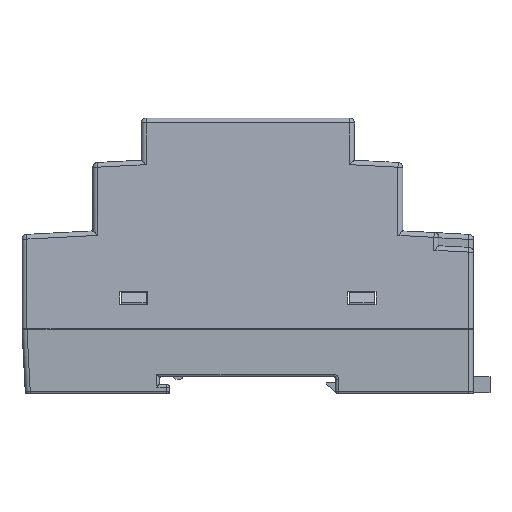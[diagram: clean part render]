
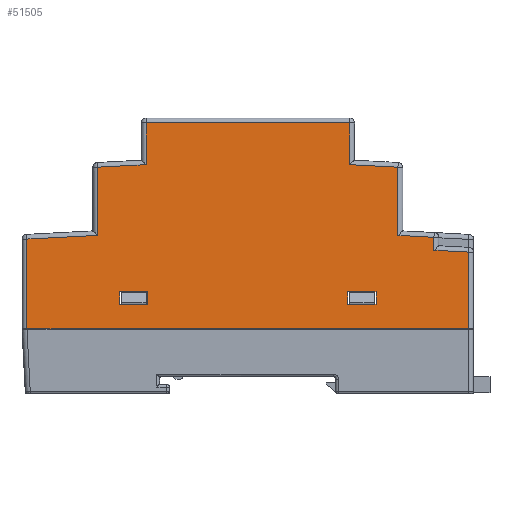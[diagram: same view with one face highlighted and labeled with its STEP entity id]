
A CAD part, left-side view. The second image highlights one B-rep face of the part: STEP entity #51505.
In plain terms, the highlighted planar face has unit normal (-0.999, 0, 0.052).
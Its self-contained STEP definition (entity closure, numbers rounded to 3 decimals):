
#20399=DIRECTION('',(-0.003,-0.999,-0.052));
#20400=VECTOR('',#20399,7.01);
#20401=CARTESIAN_POINT('',(-44.169,-37.5,15.853));
#20402=LINE('',#20401,#20400);
#20406=DIRECTION('',(0.003,-0.999,0.052));
#20407=VECTOR('',#20406,14.27);
#20408=CARTESIAN_POINT('',(-44.051,44.5,18.107));
#20409=LINE('',#20408,#20407);
#20413=DIRECTION('',(0.003,-0.999,0.052));
#20414=VECTOR('',#20413,9.763);
#20415=CARTESIAN_POINT('',(-43.292,30.25,32.592));
#20416=LINE('',#20415,#20414);
#20420=DIRECTION('',(-0.003,-0.999,-0.052));
#20421=VECTOR('',#20420,9.763);
#20422=CARTESIAN_POINT('',(-43.265,-20.5,33.103));
#20423=LINE('',#20422,#20421);
#20427=DIRECTION('',(-0.003,-0.999,-0.052));
#20428=VECTOR('',#20427,7.26);
#20429=CARTESIAN_POINT('',(-44.012,-30.25,18.853));
#20430=LINE('',#20429,#20428);
#20434=DIRECTION('',(0.,1.,0.));
#20435=VECTOR('',#20434,5.66);
#20436=CARTESIAN_POINT('',(-44.607,20.17,7.5));
#20437=LINE('',#20436,#20435);
#20441=DIRECTION('',(0.,-1.,0.));
#20442=VECTOR('',#20441,5.66);
#20443=CARTESIAN_POINT('',(-44.741,25.83,4.95));
#20444=LINE('',#20443,#20442);
#20448=DIRECTION('',(0.,1.,0.));
#20449=VECTOR('',#20448,5.66);
#20450=CARTESIAN_POINT('',(-44.607,-25.83,7.5));
#20451=LINE('',#20450,#20449);
#20455=DIRECTION('',(0.,-1.,0.));
#20456=VECTOR('',#20455,5.66);
#20457=CARTESIAN_POINT('',(-44.741,-20.17,4.95));
#20458=LINE('',#20457,#20456);
#20462=DIRECTION('',(0.052,0.,0.999));
#20463=VECTOR('',#20462,2.624);
#20464=CARTESIAN_POINT('',(-44.169,-37.5,15.853));
#20465=LINE('',#20464,#20463);
#20512=DIRECTION('',(0.052,0.,0.999));
#20513=VECTOR('',#20512,13.758);
#20514=CARTESIAN_POINT('',(-44.012,-30.25,18.853));
#20515=LINE('',#20514,#20513);
#20592=DIRECTION('',(0.052,0.,0.999));
#20593=VECTOR('',#20592,8.461);
#20594=CARTESIAN_POINT('',(-43.265,-20.5,33.103));
#20595=LINE('',#20594,#20593);
#22793=DIRECTION('',(0.,1.,0.));
#22794=VECTOR('',#22793,41.);
#22795=CARTESIAN_POINT('',(-42.822,-20.5,41.552));
#22796=LINE('',#22795,#22794);
#22831=DIRECTION('',(-0.052,0.,
-0.999));
#22832=VECTOR('',#22831,8.461);
#22833=CARTESIAN_POINT('',(-42.822,20.5,41.552));
#22834=LINE('',#22833,#22832);
#22881=DIRECTION('',(-0.052,0.,
-0.999));
#22882=VECTOR('',#22881,13.758);
#22883=CARTESIAN_POINT('',(-43.292,30.25,32.592));
#22884=LINE('',#22883,#22882);
#22924=DIRECTION('',(-0.052,0.,
-0.999));
#22925=VECTOR('',#22924,18.131);
#22926=CARTESIAN_POINT('',(-44.051,44.5,18.107));
#22927=LINE('',#22926,#22925);
#22931=DIRECTION('',(0.,-1.,0.));
#22932=VECTOR('',#22931,89.);
#22933=CARTESIAN_POINT('',(-45.,44.5,0.));
#22934=LINE('',#22933,#22932);
#23041=DIRECTION('',(0.052,0.,0.999));
#23042=VECTOR('',#23041,15.508);
#23043=CARTESIAN_POINT('',(-45.,-44.5,0.));
#23044=LINE('',#23043,#23042);
#28034=DIRECTION('',(-0.052,0.,-0.999));
#28035=VECTOR('',#28034,2.553);
#28036=CARTESIAN_POINT('',(-44.607,-25.83,7.5));
#28037=LINE('',#28036,#28035);
#28077=DIRECTION('',(0.052,0.,0.999));
#28078=VECTOR('',#28077,2.553);
#28079=CARTESIAN_POINT('',(-44.741,-20.17,4.95));
#28080=LINE('',#28079,#28078);
#28169=DIRECTION('',(-0.052,0.,-0.999));
#28170=VECTOR('',#28169,2.553);
#28171=CARTESIAN_POINT('',(-44.607,20.17,7.5));
#28172=LINE('',#28171,#28170);
#28212=DIRECTION('',(0.052,0.,0.999));
#28213=VECTOR('',#28212,2.553);
#28214=CARTESIAN_POINT('',(-44.741,25.83,4.95));
#28215=LINE('',#28214,#28213);
#47777=CARTESIAN_POINT('',(-44.169,-37.5,15.853));
#47778=CARTESIAN_POINT('',(-44.032,-37.5,18.473));
#47779=VERTEX_POINT('',#47777);
#47780=VERTEX_POINT('',#47778);
#47781=CARTESIAN_POINT('',(-44.188,-44.5,15.487));
#47782=VERTEX_POINT('',#47781);
#47783=CARTESIAN_POINT('',(-45.,-44.5,0.));
#47784=VERTEX_POINT('',#47783);
#47785=CARTESIAN_POINT('',(-45.,44.5,0.));
#47786=VERTEX_POINT('',#47785);
#47787=CARTESIAN_POINT('',(-44.051,44.5,18.107));
#47788=VERTEX_POINT('',#47787);
#47789=CARTESIAN_POINT('',(-44.012,30.25,18.853));
#47790=VERTEX_POINT('',#47789);
#47791=CARTESIAN_POINT('',(-43.292,30.25,32.592));
#47792=VERTEX_POINT('',#47791);
#47793=CARTESIAN_POINT('',(-43.265,20.5,33.103));
#47794=VERTEX_POINT('',#47793);
#47795=CARTESIAN_POINT('',(-42.822,20.5,41.552));
#47796=VERTEX_POINT('',#47795);
#47797=CARTESIAN_POINT('',(-42.822,-20.5,41.552));
#47798=VERTEX_POINT('',#47797);
#47799=CARTESIAN_POINT('',(-43.265,-20.5,33.103));
#47800=VERTEX_POINT('',#47799);
#47801=CARTESIAN_POINT('',(-43.292,-30.25,32.592));
#47802=VERTEX_POINT('',#47801);
#47803=CARTESIAN_POINT('',(-44.012,-30.25,18.853));
#47804=VERTEX_POINT('',#47803);
#47805=CARTESIAN_POINT('',(-44.607,20.17,7.5));
#47806=CARTESIAN_POINT('',(-44.607,25.83,7.5));
#47807=VERTEX_POINT('',#47805);
#47808=VERTEX_POINT('',#47806);
#47809=CARTESIAN_POINT('',(-44.741,25.83,4.95));
#47810=VERTEX_POINT('',#47809);
#47811=CARTESIAN_POINT('',(-44.741,20.17,4.95));
#47812=VERTEX_POINT('',#47811);
#47813=CARTESIAN_POINT('',(-44.607,-25.83,7.5));
#47814=CARTESIAN_POINT('',(-44.607,-20.17,7.5));
#47815=VERTEX_POINT('',#47813);
#47816=VERTEX_POINT('',#47814);
#47817=CARTESIAN_POINT('',(-44.741,-20.17,4.95));
#47818=VERTEX_POINT('',#47817);
#47819=CARTESIAN_POINT('',(-44.741,-25.83,4.95));
#47820=VERTEX_POINT('',#47819);
#51450=CARTESIAN_POINT('',(-45.,-47.118,0.));
#51451=DIRECTION('',(0.999,0.,-0.052));
#51452=DIRECTION('',(0.,-1.,0.));
#51453=AXIS2_PLACEMENT_3D('',#51450,#51451,#51452);
#51454=PLANE('',#51453);
#51456=ORIENTED_EDGE('',*,*,#51455,.F.);
#51458=ORIENTED_EDGE('',*,*,#51457,.T.);
#51460=ORIENTED_EDGE('',*,*,#51459,.F.);
#51462=ORIENTED_EDGE('',*,*,#51461,.F.);
#51464=ORIENTED_EDGE('',*,*,#51463,.F.);
#51466=ORIENTED_EDGE('',*,*,#51465,.T.);
#51468=ORIENTED_EDGE('',*,*,#51467,.F.);
#51470=ORIENTED_EDGE('',*,*,#51469,.T.);
#51472=ORIENTED_EDGE('',*,*,#51471,.F.);
#51474=ORIENTED_EDGE('',*,*,#51473,.F.);
#51476=ORIENTED_EDGE('',*,*,#51475,.F.);
#51478=ORIENTED_EDGE('',*,*,#51477,.T.);
#51480=ORIENTED_EDGE('',*,*,#51479,.F.);
#51482=ORIENTED_EDGE('',*,*,#51481,.T.);
#51483=EDGE_LOOP('',(#51456,#51458,#51460,#51462,#51464,#51466,#51468,#51470,
#51472,#51474,#51476,#51478,#51480,#51482));
#51484=FACE_OUTER_BOUND('',#51483,.F.);
#51486=ORIENTED_EDGE('',*,*,#51485,.T.);
#51488=ORIENTED_EDGE('',*,*,#51487,.F.);
#51490=ORIENTED_EDGE('',*,*,#51489,.T.);
#51492=ORIENTED_EDGE('',*,*,#51491,.F.);
#51493=EDGE_LOOP('',(#51486,#51488,#51490,#51492));
#51494=FACE_BOUND('',#51493,.F.);
#51496=ORIENTED_EDGE('',*,*,#51495,.T.);
#51498=ORIENTED_EDGE('',*,*,#51497,.F.);
#51500=ORIENTED_EDGE('',*,*,#51499,.T.);
#51502=ORIENTED_EDGE('',*,*,#51501,.F.);
#51503=EDGE_LOOP('',(#51496,#51498,#51500,#51502));
#51504=FACE_BOUND('',#51503,.F.);
#51455=EDGE_CURVE('',#47779,#47780,#20465,.T.);
#51457=EDGE_CURVE('',#47779,#47782,#20402,.T.);
#51459=EDGE_CURVE('',#47784,#47782,#23044,.T.);
#51461=EDGE_CURVE('',#47786,#47784,#22934,.T.);
#51463=EDGE_CURVE('',#47788,#47786,#22927,.T.);
#51465=EDGE_CURVE('',#47788,#47790,#20409,.T.);
#51467=EDGE_CURVE('',#47792,#47790,#22884,.T.);
#51469=EDGE_CURVE('',#47792,#47794,#20416,.T.);
#51471=EDGE_CURVE('',#47796,#47794,#22834,.T.);
#51473=EDGE_CURVE('',#47798,#47796,#22796,.T.);
#51475=EDGE_CURVE('',#47800,#47798,#20595,.T.);
#51477=EDGE_CURVE('',#47800,#47802,#20423,.T.);
#51479=EDGE_CURVE('',#47804,#47802,#20515,.T.);
#51481=EDGE_CURVE('',#47804,#47780,#20430,.T.);
#51485=EDGE_CURVE('',#47807,#47808,#20437,.T.);
#51487=EDGE_CURVE('',#47810,#47808,#28215,.T.);
#51489=EDGE_CURVE('',#47810,#47812,#20444,.T.);
#51491=EDGE_CURVE('',#47807,#47812,#28172,.T.);
#51495=EDGE_CURVE('',#47815,#47816,#20451,.T.);
#51497=EDGE_CURVE('',#47818,#47816,#28080,.T.);
#51499=EDGE_CURVE('',#47818,#47820,#20458,.T.);
#51501=EDGE_CURVE('',#47815,#47820,#28037,.T.);
#51505=ADVANCED_FACE('',(#51484,#51494,#51504),#51454,.F.);
